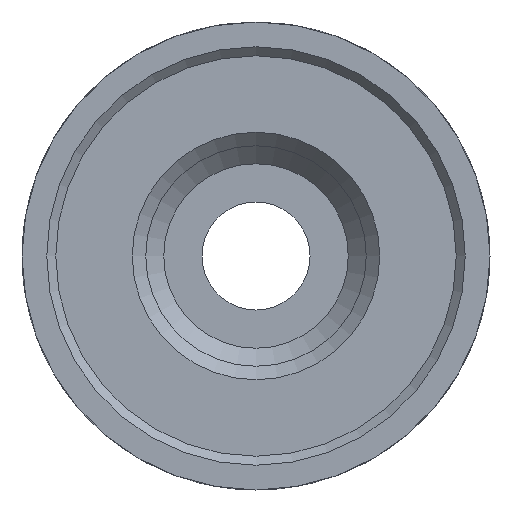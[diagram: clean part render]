
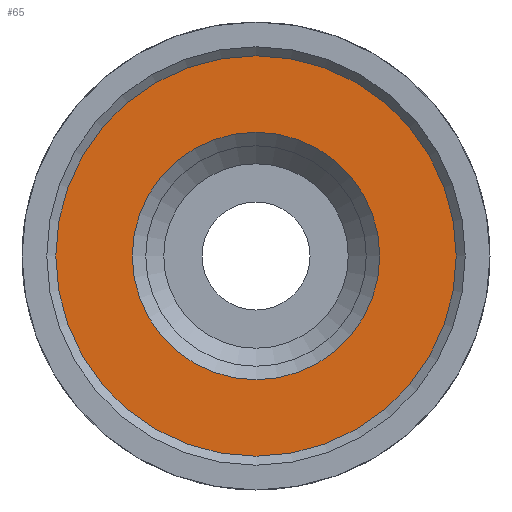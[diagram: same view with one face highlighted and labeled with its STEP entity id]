
A CAD part, left-side view. The second image highlights one B-rep face of the part: STEP entity #65.
In plain terms, the highlighted planar face has unit normal (-1, 0, 0).
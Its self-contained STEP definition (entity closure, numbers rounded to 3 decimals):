
#65 = ADVANCED_FACE( '', ( #152, #153 ), #154, .T. );
#152 = FACE_BOUND( '', #273, .T. );
#153 = FACE_OUTER_BOUND( '', #274, .T. );
#154 = PLANE( '', #275 );
#273 = EDGE_LOOP( '', ( #439 ) );
#274 = EDGE_LOOP( '', ( #440 ) );
#275 = AXIS2_PLACEMENT_3D( '', #441, #442, #443 );
#439 = ORIENTED_EDGE( '', *, *, #644, .T. );
#440 = ORIENTED_EDGE( '', *, *, #645, .T. );
#441 = CARTESIAN_POINT( '', ( 3., 0., 0. ) );
#442 = DIRECTION( '', ( -1., 0., 0. ) );
#443 = DIRECTION( '', ( 0., 0., 1. ) );
#644 = EDGE_CURVE( '', #757, #757, #758, .F. );
#645 = EDGE_CURVE( '', #759, #759, #760, .T. );
#757 = VERTEX_POINT( '', #1145 );
#758 = CIRCLE( '', #1146, 13.75 );
#759 = VERTEX_POINT( '', #1147 );
#760 = CIRCLE( '', #1148, 22.25 );
#1145 = CARTESIAN_POINT( '', ( 3., 0., 13.75 ) );
#1146 = AXIS2_PLACEMENT_3D( '', #1325, #1326, #1327 );
#1147 = CARTESIAN_POINT( '', ( 3., 0., 22.25 ) );
#1148 = AXIS2_PLACEMENT_3D( '', #1328, #1329, #1330 );
#1325 = CARTESIAN_POINT( '', ( 3., 0., 0. ) );
#1326 = DIRECTION( '', ( -1., 0., 0. ) );
#1327 = DIRECTION( '', ( 0., 0., 1. ) );
#1328 = CARTESIAN_POINT( '', ( 3., 0., 0. ) );
#1329 = DIRECTION( '', ( -1., 0., 0. ) );
#1330 = DIRECTION( '', ( 0., 0., 1. ) );
